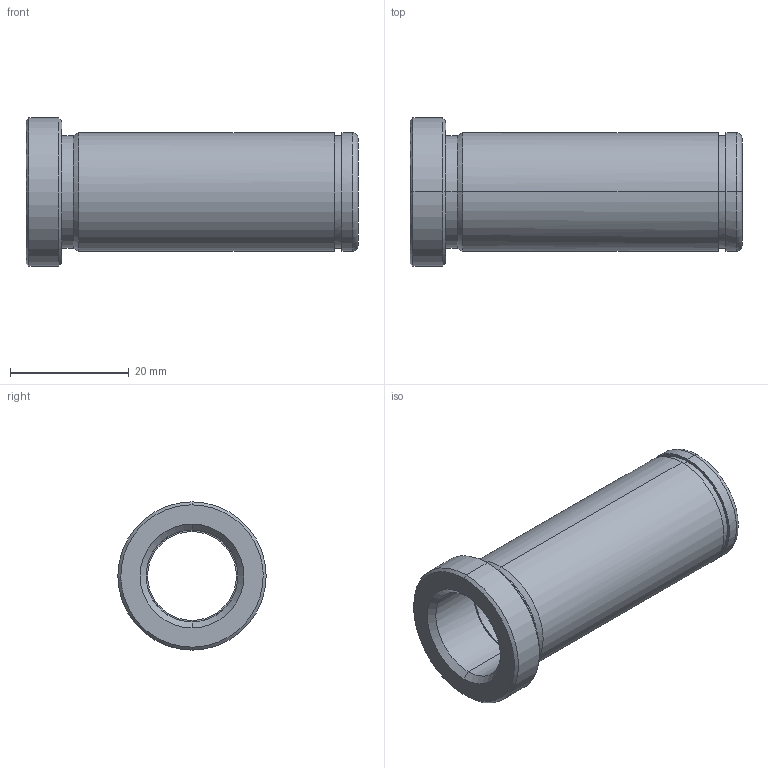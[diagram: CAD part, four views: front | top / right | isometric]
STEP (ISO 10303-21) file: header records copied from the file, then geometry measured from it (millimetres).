
FILE_DESCRIPTION(('CATIA V5 STEP Exchange'),'2;1');
FILE_NAME('C:\Users\Utente\Desktop\IO LAVORO\3D X SITO CF\X SITO\PLASTICA\553\553-15X56.stp','2021-05-21T18:36:23+00:00',('none'),('none'),'CATIA Version 5 Release 20 GA (IN-10)','CATIA V5 STEP AP203','none');
FILE_SCHEMA(('CONFIG_CONTROL_DESIGN'));
Length unit declared in the file: millimetre
Products named in the file (1): 553-15X56
Bounding box: 56 x 25 x 25 mm (x, y, z)
Volume: 8441.2 mm3; surface area: 6853.5 mm2
Topology: 1 solids, 1 shells, 31 faces, 98 edges, 72 vertices
Faces by surface type: cylinder 14, cone 8, plane 5, torus 4
Entity records: 1288 total; most frequent: CARTESIAN_POINT 384, ORIENTED_EDGE 196, DIRECTION 144, EDGE_CURVE 98, AXIS2_PLACEMENT_3D 92, VERTEX_POINT 72, CIRCLE 60, EDGE_LOOP 36
